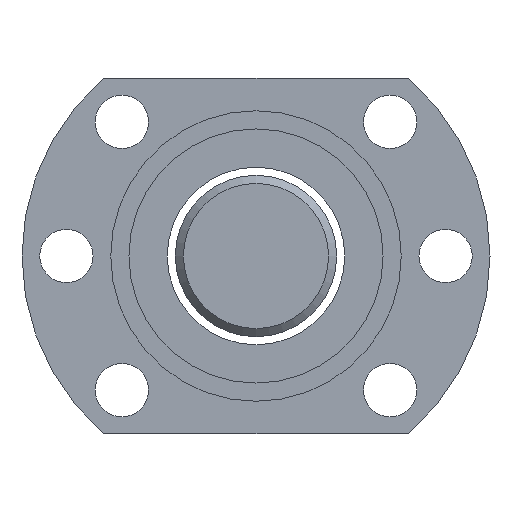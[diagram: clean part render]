
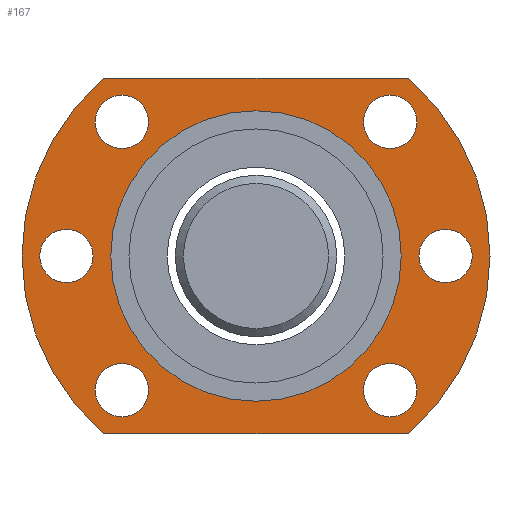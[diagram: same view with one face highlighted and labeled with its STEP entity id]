
A CAD part, left-side view. The second image highlights one B-rep face of the part: STEP entity #167.
In plain terms, the highlighted planar face has unit normal (-1, 0, 0).
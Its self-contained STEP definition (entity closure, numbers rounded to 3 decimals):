
#113=LINE('',#1132,#121);
#114=LINE('',#1136,#122);
#121=VECTOR('',#930,1.);
#122=VECTOR('',#933,1.);
#136=PLANE('',#782);
#167=ADVANCED_FACE('',(#267,#268,#269,#270,#271,#272,#273,#274),#136,.T.);
#267=FACE_BOUND('',#367,.T.);
#268=FACE_BOUND('',#368,.T.);
#269=FACE_BOUND('',#369,.T.);
#270=FACE_BOUND('',#370,.T.);
#271=FACE_BOUND('',#371,.T.);
#272=FACE_BOUND('',#372,.T.);
#273=FACE_BOUND('',#373,.T.);
#274=FACE_BOUND('',#374,.T.);
#367=EDGE_LOOP('',(#476));
#368=EDGE_LOOP('',(#477));
#369=EDGE_LOOP('',(#478,#479,#480,#481));
#370=EDGE_LOOP('',(#482));
#371=EDGE_LOOP('',(#483));
#372=EDGE_LOOP('',(#484));
#373=EDGE_LOOP('',(#485));
#374=EDGE_LOOP('',(#486));
#476=ORIENTED_EDGE('',*,*,#641,.T.);
#477=ORIENTED_EDGE('',*,*,#630,.F.);
#478=ORIENTED_EDGE('',*,*,#642,.T.);
#479=ORIENTED_EDGE('',*,*,#643,.T.);
#480=ORIENTED_EDGE('',*,*,#644,.T.);
#481=ORIENTED_EDGE('',*,*,#645,.T.);
#482=ORIENTED_EDGE('',*,*,#646,.F.);
#483=ORIENTED_EDGE('',*,*,#647,.F.);
#484=ORIENTED_EDGE('',*,*,#648,.F.);
#485=ORIENTED_EDGE('',*,*,#649,.T.);
#486=ORIENTED_EDGE('',*,*,#650,.T.);
#572=VERTEX_POINT('',#1104);
#583=VERTEX_POINT('',#1128);
#584=VERTEX_POINT('',#1130);
#585=VERTEX_POINT('',#1131);
#586=VERTEX_POINT('',#1133);
#587=VERTEX_POINT('',#1135);
#588=VERTEX_POINT('',#1138);
#589=VERTEX_POINT('',#1140);
#590=VERTEX_POINT('',#1142);
#591=VERTEX_POINT('',#1144);
#592=VERTEX_POINT('',#1146);
#630=EDGE_CURVE('',#572,#572,#692,.T.);
#641=EDGE_CURVE('',#583,#583,#701,.T.);
#642=EDGE_CURVE('',#584,#585,#702,.T.);
#643=EDGE_CURVE('',#585,#586,#113,.T.);
#644=EDGE_CURVE('',#586,#587,#703,.T.);
#645=EDGE_CURVE('',#587,#584,#114,.T.);
#646=EDGE_CURVE('',#588,#588,#704,.T.);
#647=EDGE_CURVE('',#589,#589,#705,.T.);
#648=EDGE_CURVE('',#590,#590,#706,.T.);
#649=EDGE_CURVE('',#591,#591,#707,.T.);
#650=EDGE_CURVE('',#592,#592,#708,.T.);
#692=CIRCLE('',#763,18.);
#701=CIRCLE('',#774,3.3);
#702=CIRCLE('',#775,29.);
#703=CIRCLE('',#776,29.);
#704=CIRCLE('',#777,3.3);
#705=CIRCLE('',#778,3.3);
#706=CIRCLE('',#779,3.3);
#707=CIRCLE('',#780,3.3);
#708=CIRCLE('',#781,3.3);
#763=AXIS2_PLACEMENT_3D('',#1103,#902,#903);
#774=AXIS2_PLACEMENT_3D('',#1127,#926,#927);
#775=AXIS2_PLACEMENT_3D('',#1129,#928,#929);
#776=AXIS2_PLACEMENT_3D('',#1134,#931,#932);
#777=AXIS2_PLACEMENT_3D('',#1137,#934,#935);
#778=AXIS2_PLACEMENT_3D('',#1139,#936,#937);
#779=AXIS2_PLACEMENT_3D('',#1141,#938,#939);
#780=AXIS2_PLACEMENT_3D('',#1143,#940,#941);
#781=AXIS2_PLACEMENT_3D('',#1145,#942,#943);
#782=AXIS2_PLACEMENT_3D('',#1147,#944,#945);
#902=DIRECTION('',(-1.,0.,0.));
#903=DIRECTION('',(0.,0.,-1.));
#926=DIRECTION('',(1.,0.,0.));
#927=DIRECTION('',(0.,0.,1.));
#928=DIRECTION('',(-1.,0.,0.));
#929=DIRECTION('',(0.,0.,-1.));
#930=DIRECTION('',(0.,-1.,0.));
#931=DIRECTION('',(-1.,0.,0.));
#932=DIRECTION('',(0.,0.,-1.));
#933=DIRECTION('',(0.,1.,0.));
#934=DIRECTION('',(-1.,0.,0.));
#935=DIRECTION('',(0.,0.,1.));
#936=DIRECTION('',(-1.,0.,0.));
#937=DIRECTION('',(0.,0.,1.));
#938=DIRECTION('',(-1.,0.,0.));
#939=DIRECTION('',(0.,0.,1.));
#940=DIRECTION('',(1.,0.,0.));
#941=DIRECTION('',(0.,0.,1.));
#942=DIRECTION('',(1.,0.,0.));
#943=DIRECTION('',(0.,0.,1.));
#944=DIRECTION('',(-1.,0.,0.));
#945=DIRECTION('',(0.,0.,1.));
#1103=CARTESIAN_POINT('',(-113.948,-37.903,-21.377));
#1104=CARTESIAN_POINT('',(-113.948,-37.903,-39.377));
#1127=CARTESIAN_POINT('',(-113.948,-61.403,-21.377));
#1128=CARTESIAN_POINT('',(-113.948,-61.403,-18.077));
#1129=CARTESIAN_POINT('',(-113.948,-37.903,-21.377));
#1130=CARTESIAN_POINT('',(-113.948,-19.009,0.623));
#1131=CARTESIAN_POINT('',(-113.948,-19.009,-43.377));
#1132=CARTESIAN_POINT('',(-113.948,-19.009,-43.377));
#1133=CARTESIAN_POINT('',(-113.948,-56.798,-43.377));
#1134=CARTESIAN_POINT('',(-113.948,-37.903,-21.377));
#1135=CARTESIAN_POINT('',(-113.948,-56.798,0.623));
#1136=CARTESIAN_POINT('',(-113.948,-56.798,0.623));
#1137=CARTESIAN_POINT('',(-113.948,-14.403,-21.377));
#1138=CARTESIAN_POINT('',(-113.948,-14.403,-18.077));
#1139=CARTESIAN_POINT('',(-113.948,-21.286,-4.76));
#1140=CARTESIAN_POINT('',(-113.948,-21.286,-1.46));
#1141=CARTESIAN_POINT('',(-113.948,-21.286,-37.994));
#1142=CARTESIAN_POINT('',(-113.948,-21.286,-34.694));
#1143=CARTESIAN_POINT('',(-113.948,-54.52,-37.994));
#1144=CARTESIAN_POINT('',(-113.948,-54.52,-34.694));
#1145=CARTESIAN_POINT('',(-113.948,-54.52,-4.76));
#1146=CARTESIAN_POINT('',(-113.948,-54.52,-1.46));
#1147=CARTESIAN_POINT('',(-113.948,-37.903,-21.377));
